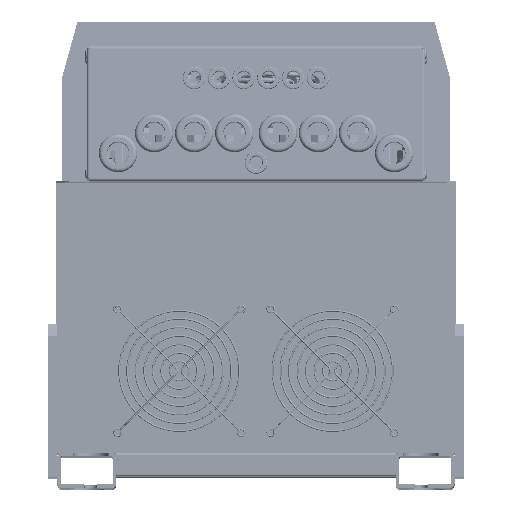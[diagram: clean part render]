
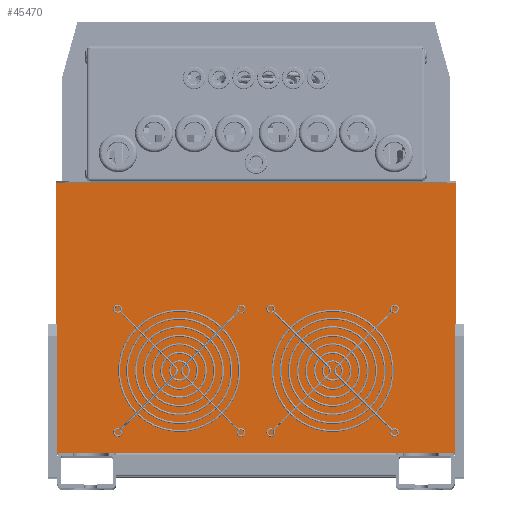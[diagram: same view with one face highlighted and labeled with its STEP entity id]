
A CAD part, top view. The second image highlights one B-rep face of the part: STEP entity #45470.
In plain terms, the highlighted planar face has unit normal (0, 0, 1).
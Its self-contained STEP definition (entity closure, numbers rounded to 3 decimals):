
#5739=LINE('',#84062,#10495);
#5743=LINE('',#84070,#10499);
#5746=LINE('',#84075,#10502);
#5747=LINE('',#84078,#10503);
#10495=VECTOR('',#61831,10.);
#10499=VECTOR('',#61839,10.);
#10502=VECTOR('',#61844,10.);
#10503=VECTOR('',#61849,10.);
#12305=PLANE('',#49624);
#15457=FACE_OUTER_BOUND('',#18609,.T.);
#18609=EDGE_LOOP('',(#42517,#42518,#42519,#42520));
#23961=VERTEX_POINT('',#84059);
#23962=VERTEX_POINT('',#84061);
#23964=VERTEX_POINT('',#84069);
#23965=VERTEX_POINT('',#84073);
#30142=EDGE_CURVE('',#23962,#23961,#5739,.T.);
#30146=EDGE_CURVE('',#23962,#23964,#5743,.T.);
#30149=EDGE_CURVE('',#23965,#23961,#5746,.T.);
#30150=EDGE_CURVE('',#23965,#23964,#5747,.T.);
#42517=ORIENTED_EDGE('',*,*,#30142,.T.);
#42518=ORIENTED_EDGE('',*,*,#30149,.F.);
#42519=ORIENTED_EDGE('',*,*,#30150,.T.);
#42520=ORIENTED_EDGE('',*,*,#30146,.F.);
#45470=ADVANCED_FACE('',(#15457),#12305,.T.);
#49624=AXIS2_PLACEMENT_3D('',#84079,#61850,#61851);
#61831=DIRECTION('',(-1.,0.,0.));
#61839=DIRECTION('',(0.,-1.,0.));
#61844=DIRECTION('',(0.,1.,0.));
#61849=DIRECTION('',(1.,0.,0.));
#61850=DIRECTION('center_axis',(0.,0.,1.));
#61851=DIRECTION('ref_axis',(0.,-1.,0.));
#84059=CARTESIAN_POINT('',(-170.,228.612,3.1));
#84061=CARTESIAN_POINT('',(170.,228.612,3.1));
#84062=CARTESIAN_POINT('',(-85.,228.612,3.1));
#84069=CARTESIAN_POINT('',(170.,0.,3.1));
#84070=CARTESIAN_POINT('',(170.,0.,3.1));
#84073=CARTESIAN_POINT('',(-170.,0.,3.1));
#84075=CARTESIAN_POINT('',(-170.,0.,3.1));
#84078=CARTESIAN_POINT('',(0.,0.,3.1));
#84079=CARTESIAN_POINT('Origin',(0.,230.114,3.1));
